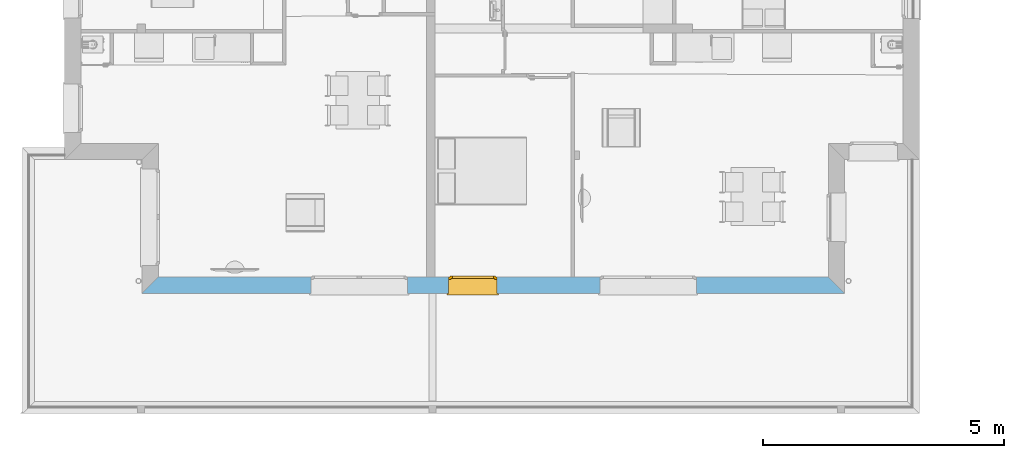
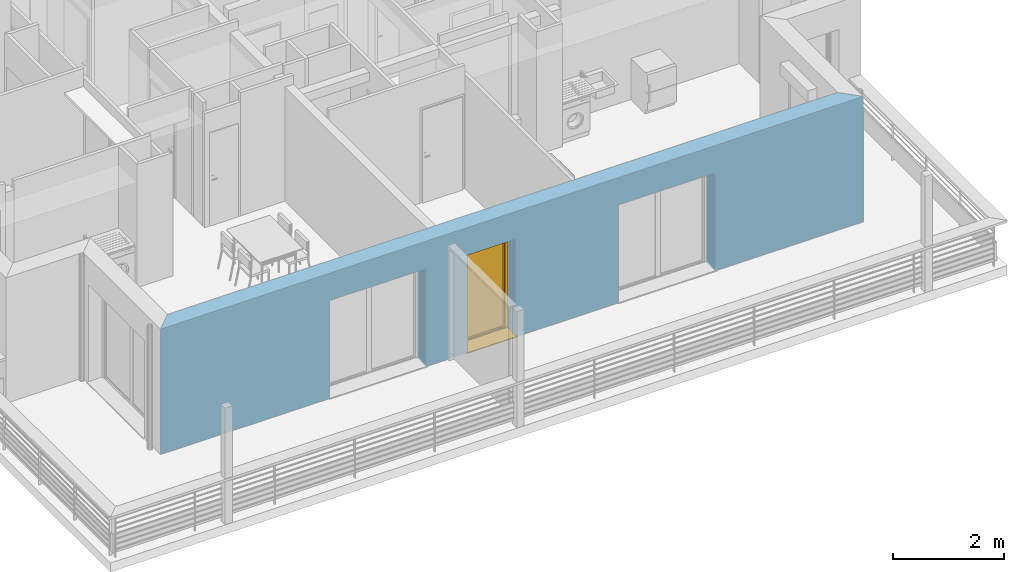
# One storey, part 6 of 164: 1 window, 3 openings, plus 1 element that does not belong to this part.
"""IFC2X3 building model written with IfcOpenShell, lengths in millimetres."""

from ifc_helpers import new_model, entity, si_unit, converted_unit, derived_unit, money_unit, direction, frame, origin_with_axes, place, context, subcontext, project, spatial, polyline, outline, extrude, open_shell, faceted_brep, surface_model, source, transform, mapped, material, layer, layer_set, layer_usage, type_object, element, fill, save


model = new_model("IFC2X3")

# Units and contexts
model_context = context("Model", 3, precision=0.01, world=origin_with_axes(), true_north=direction((0.0, 1.0)))
body_context = subcontext(model_context, "Body", "Model", "MODEL_VIEW")
ifc_project = project(units=[si_unit("LENGTHUNIT", "METRE", prefix="MILLI"), si_unit("AREAUNIT", "SQUARE_METRE"), si_unit("VOLUMEUNIT", "CUBIC_METRE"), converted_unit("PLANEANGLEUNIT", "DEGREE", entity("IfcPlaneAngleMeasure", 0.0174532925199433), si_unit("PLANEANGLEUNIT", "RADIAN"), dimensions=[0, 0, 0, 0, 0, 0, 0]), money_unit("USD"), converted_unit("TIMEUNIT", "Year", entity("IfcTimeMeasure", 31557600.0), si_unit("TIMEUNIT", "SECOND"), dimensions=[0, 0, 1, 0, 0, 0, 0]), si_unit("MASSUNIT", "GRAM", prefix="KILO"), si_unit("THERMODYNAMICTEMPERATUREUNIT", "DEGREE_CELSIUS"), si_unit("LUMINOUSINTENSITYUNIT", "LUMEN"), si_unit("ENERGYUNIT", "JOULE", prefix="MEGA"), derived_unit("THERMALCONDUCTANCEUNIT", [(si_unit("POWERUNIT", "WATT"), 1), (si_unit("LENGTHUNIT", "METRE"), -1), (si_unit("THERMODYNAMICTEMPERATUREUNIT", "KELVIN"), -1)]), derived_unit("SPECIFICHEATCAPACITYUNIT", [(si_unit("ENERGYUNIT", "JOULE"), 1), (si_unit("MASSUNIT", "GRAM", prefix="KILO"), -1), (si_unit("THERMODYNAMICTEMPERATUREUNIT", "KELVIN"), -1)]), derived_unit("MASSDENSITYUNIT", [(si_unit("MASSUNIT", "GRAM", prefix="KILO"), 1), (si_unit("VOLUMEUNIT", "CUBIC_METRE"), -1)])], contexts=[model_context])

# Site, building, storey
site_placement = place(None, origin_with_axes())
site = spatial("IfcSite", under=ifc_project, at=site_placement, Name="Site", CompositionType="ELEMENT")
building_placement = place(site_placement, origin_with_axes())
building = spatial("IfcBuilding", under=site, at=building_placement, Name="Bâtiment", CompositionType="ELEMENT")
storey_placement = place(building_placement, frame((0.0, 0.0, 5750.0), z_axis=(0.0, 0.0, 1.0), x_axis=(1.0, 0.0, 0.0)))
storey = spatial("IfcBuildingStorey", under=building, at=storey_placement, Name="Etage1", CompositionType="ELEMENT", Elevation=5750.0)

# Wall, openings, window
ifc_material_1 = material(Name="Parpaing 312445824")
ifc_layer_1 = layer(ifc_material_1, 180.0, ventilated="UNKNOWN")
ifc_material_2 = material(Name="Isolant styromousse 301821074")
ifc_layer_2 = layer(ifc_material_2, 160.0, ventilated="UNKNOWN")
ifc_layer_set = layer_set([ifc_layer_1, ifc_layer_2], Name="isol int 18+16 0018356637")
ifc_layer_usage = layer_usage(ifc_layer_set, "AXIS2", "POSITIVE", 0.0)
wall_type = type_object("IfcWallType", Name="isol int 18+16 0018356637 340", PredefinedType="NOTDEFINED")
wall_placement = place(storey_placement, frame((2218234.233338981, -657818.3230769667, 0.0), z_axis=(0.0, 0.0, 1.0), x_axis=(1.0, 0.0, 0.0)))
wall = element("IfcWallStandardCase", 1, at=wall_placement, inside=storey, type_object=wall_type, material=ifc_layer_usage, Name="Mur-142", context=body_context, shape_type="SweptSolid", body=[
    extrude(outline(polyline([(0.0, 0.0), (14572.42475965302, 0.0), (14232.42475965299, 340.0000000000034), (340.0000000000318, 340.0000000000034), (0.0, 0.0)])), origin_with_axes(), (0.0, 0.0, 1.0), 2750.0),
])
opening_1_placement = place(wall_placement, frame((6861.100702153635, 0.0, 0.0), z_axis=(0.0, 0.0, 1.0), x_axis=(1.0, 0.0, 0.0)))
opening_1 = element("IfcOpeningElement", 2, at=opening_1_placement, cuts=wall, Name="Fen-208", context=body_context, shape_type="Brep", body=[
    faceted_brep([(-500.0, 341.0000000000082, 2150.0), (500.0, 341.0000000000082, 2150.0), (500.0, 341.0000000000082, 0.0), (-500.0, 341.0000000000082, 0.0), (-500.0, 530.0000000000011, 2150.0), (500.0, 530.0000000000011, 2150.0), (500.0, 290.0000000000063, 2150.0), (500.0, 290.0000000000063, 0.0), (500.0, -1.000000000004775, 0.0), (-500.0, -1.000000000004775, 0.0), (-500.0, 290.0000000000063, 0.0), (-500.0, 290.0000000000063, 2150.0), (-500.0, 280.0000000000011, 2150.0), (-500.0, 280.0000000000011, 2400.0), (-500.0, 530.0000000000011, 2400.0), (500.0, 530.0000000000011, 2400.0), (500.0, 280.0000000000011, 2400.0), (500.0, 280.0000000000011, 2150.0), (500.0, -1.000000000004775, 2150.0), (-500.0, -1.000000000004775, 2150.0)], [[[0, 1, 2, 3]], [[1, 0, 4, 5]], [[1, 6, 7, 2]], [[7, 8, 9, 10, 3, 2]], [[11, 0, 3, 10]], [[0, 11, 12, 13, 14, 4]], [[4, 14, 15, 5]], [[6, 1, 5, 15, 16, 17]], [[6, 17, 18, 8, 7]], [[19, 9, 8, 18]], [[12, 11, 10, 9, 19]], [[12, 17, 16, 13]], [[14, 13, 16, 15]], [[17, 12, 19, 18]]]),
])
opening_2_placement = place(wall_placement, frame((4505.859536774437, 0.0, 0.0), z_axis=(0.0, 0.0, 1.0), x_axis=(1.0, 0.0, 0.0)))
element("IfcOpeningElement", 3, at=opening_2_placement, cuts=wall, Name="Fen-207", context=body_context, shape_type="Brep", body=[
    faceted_brep([(-1000.0, 341.0000000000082, 2149.999999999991), (1000.0, 341.0000000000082, 2149.999999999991), (1000.0, 341.0000000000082, 0.0), (-1000.0, 341.0000000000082, 0.0), (-1000.0, 530.0000000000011, 2149.999999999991), (1000.0, 530.0000000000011, 2149.999999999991), (1000.0, 290.0000000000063, 2149.999999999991), (1000.0, 290.0000000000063, 0.0), (1000.0, -1.000000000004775, 0.0), (-1000.0, -1.000000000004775, 0.0), (-1000.0, 290.0000000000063, 0.0), (-1000.0, 290.0000000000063, 2149.999999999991), (-1000.0, 280.0000000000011, 2149.999999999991), (-1000.0, 280.0000000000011, 2399.999999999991), (-1000.0, 530.0000000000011, 2399.999999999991), (1000.0, 530.0000000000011, 2399.999999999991), (1000.0, 280.0000000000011, 2399.999999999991), (1000.0, 280.0000000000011, 2149.999999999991), (1000.0, -1.000000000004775, 2149.999999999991), (-1000.0, -1.000000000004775, 2149.999999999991)], [[[0, 1, 2, 3]], [[1, 0, 4, 5]], [[1, 6, 7, 2]], [[7, 8, 9, 10, 3, 2]], [[11, 0, 3, 10]], [[0, 11, 12, 13, 14, 4]], [[15, 5, 4, 14]], [[6, 1, 5, 15, 16, 17]], [[6, 17, 18, 8, 7]], [[19, 9, 8, 18]], [[12, 11, 10, 9, 19]], [[12, 17, 16, 13]], [[16, 15, 14, 13]], [[17, 12, 19, 18]]]),
])
opening_3_placement = place(wall_placement, frame((10494.55984898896, 0.0, 0.0), z_axis=(0.0, 0.0, 1.0), x_axis=(1.0, 0.0, 0.0)))
element("IfcOpeningElement", 4, at=opening_3_placement, cuts=wall, Name="Fen-207", context=body_context, shape_type="Brep", body=[
    faceted_brep([(-1000.0, 341.0000000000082, 2149.999999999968), (1000.0, 341.0000000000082, 2149.999999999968), (1000.0, 341.0000000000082, 0.0), (-1000.0, 341.0000000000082, 0.0), (-1000.0, 530.0000000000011, 2149.999999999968), (1000.0, 530.0000000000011, 2149.999999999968), (1000.0, 290.0000000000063, 2149.999999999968), (1000.0, 290.0000000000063, 0.0), (1000.0, -1.000000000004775, 0.0), (-1000.0, -1.000000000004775, 0.0), (-1000.0, 290.0000000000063, 0.0), (-1000.0, 290.0000000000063, 2149.999999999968), (-1000.0, 280.0000000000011, 2149.999999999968), (-1000.0, 280.0000000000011, 2399.999999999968), (-1000.0, 530.0000000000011, 2399.999999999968), (1000.0, 530.0000000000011, 2399.999999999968), (1000.0, 280.0000000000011, 2399.999999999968), (1000.0, 280.0000000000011, 2149.999999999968), (1000.0, -1.000000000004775, 2149.999999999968), (-1000.0, -1.000000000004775, 2149.999999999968)], [[[0, 1, 2, 3]], [[1, 0, 4, 5]], [[1, 6, 7, 2]], [[7, 8, 9, 10, 3, 2]], [[11, 0, 3, 10]], [[0, 11, 12, 13, 14, 4]], [[15, 5, 4, 14]], [[6, 1, 5, 15, 16, 17]], [[6, 17, 18, 8, 7]], [[19, 9, 8, 18]], [[12, 11, 10, 9, 19]], [[12, 17, 16, 13]], [[16, 15, 14, 13]], [[17, 12, 19, 18]]]),
])
window_style = type_object("IfcWindowStyle", Name="Fenêtre 27", ConstructionType="NOTDEFINED", OperationType="SINGLE_PANEL", ParameterTakesPrecedence=False, Sizeable=False)
shared_shape = source(origin_with_axes(), body_context, "Body", "SurfaceModel", [
    surface_model("IfcShellBasedSurfaceModel", [(-500.0, -51.00000000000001, 40.00000000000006), (500.0, -51.00000000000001, 40.0), (500.0, -51.00000000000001, 50.0), (-500.0, -51.00000000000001, 50.00000000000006), (-530.0, -369.9999999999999, 28.96551724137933), (530.0, -369.9999999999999, 28.96551724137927), (530.0, -339.9999999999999, 30.00324289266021), (500.0, -339.9999999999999, 30.00324289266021), (-500.0, -339.9999999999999, 30.00324289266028), (-530.0, -339.9999999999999, 30.00324289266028), (-530.0, -369.9999999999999, 8.96551724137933), (530.0, -369.9999999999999, 8.965517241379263), (-530.0, -359.9999999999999, 18.96551724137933), (530.0, -359.9999999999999, 18.96551724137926)], [open_shell([[[0, 1, 2, 3]], [[4, 5, 6, 7, 1, 0, 8, 9]], [[10, 11, 5, 4]], [[12, 13, 11, 10]]])]),
    faceted_brep([(500.0, -59.99999999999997, 2400.0), (500.0, 190.0, 2400.0), (497.0, 190.0, 2400.0), (497.0, -59.99999999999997, 2400.0), (500.0, -59.99999999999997, 2150.0), (500.0, 190.0, 2150.0), (497.0, 190.0, 2150.0), (497.0, -59.99999999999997, 2150.0)], [[[0, 1, 2, 3]], [[0, 4, 5, 1]], [[1, 5, 6, 2]], [[3, 2, 6, 7]], [[4, 0, 3, 7]], [[5, 4, 7, 6]]]),
    faceted_brep([(-497.0, -59.99999999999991, 2400.0), (-497.0, 190.0000000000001, 2400.0), (-500.0, 190.0000000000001, 2400.0), (-500.0, -59.99999999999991, 2400.0), (-497.0, -59.99999999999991, 2150.0), (-497.0, 190.0000000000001, 2150.0), (-500.0, 190.0000000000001, 2150.0), (-500.0, -59.99999999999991, 2150.0)], [[[0, 1, 2, 3]], [[0, 4, 5, 1]], [[1, 5, 6, 2]], [[3, 2, 6, 7]], [[4, 0, 3, 7]], [[5, 4, 7, 6]]]),
    faceted_brep([(497.0, -60.0, 2150.0), (497.0, -60.0, 2400.0), (-497.0, -59.99999999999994, 2400.0), (-497.0, -59.99999999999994, 2150.0), (497.0, -56.99999999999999, 2150.0), (497.0, -56.99999999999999, 2397.0), (497.0, 187.0, 2397.0), (497.0, 187.0, 2153.0), (497.0, -37.99999999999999, 2153.0), (497.0, -37.99999999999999, 2150.0), (497.0, 190.0, 2150.0), (497.0, 190.0, 2400.0), (-497.0, 190.0000000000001, 2400.0), (-497.0, 190.0000000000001, 2150.0), (-497.0, -37.99999999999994, 2150.0), (-497.0, -37.99999999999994, 2153.0), (-497.0, 187.0000000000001, 2153.0), (-497.0, 187.0000000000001, 2397.0), (-497.0, -56.99999999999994, 2397.0), (-497.0, -56.99999999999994, 2150.0)], [[[0, 1, 2, 3]], [[0, 4, 5, 6, 7, 8, 9, 10, 11, 1]], [[1, 11, 12, 2]], [[3, 2, 12, 13, 14, 15, 16, 17, 18, 19]], [[4, 0, 3, 19]], [[5, 4, 19, 18]], [[6, 5, 18, 17]], [[7, 6, 17, 16]], [[8, 7, 16, 15]], [[9, 8, 15, 14]], [[10, 9, 14, 13]], [[11, 10, 13, 12]]]),
    faceted_brep([(494.0, -40.37442957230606, 2256.419644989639), (494.0, -35.54711042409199, 2238.403844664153), (494.0, -27.66471820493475, 2221.5), (494.0, -16.9667554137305, 2206.22172576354), (494.0, -3.778274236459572, 2193.033244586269), (494.0, 11.50000000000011, 2182.335281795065), (494.0, 28.40384466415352, 2174.452889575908), (494.0, 46.4196449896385, 2169.625570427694), (494.0, 65.00000000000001, 2168.0), (494.0, 83.58035501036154, 2169.625570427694), (494.0, 101.5961553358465, 2174.452889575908), (494.0, 118.4999999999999, 2182.335281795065), (494.0, 133.7782742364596, 2193.033244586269), (494.0, 146.9667554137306, 2206.22172576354), (494.0, 157.6647182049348, 2221.5), (494.0, 165.5471104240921, 2238.403844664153), (494.0, 170.3744295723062, 2256.419644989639), (494.0, 171.9999999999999, 2275.0), (494.0, 170.3744295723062, 2293.580355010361), (494.0, 165.5471104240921, 2311.596155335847), (494.0, 157.6647182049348, 2328.5), (494.0, 146.9667554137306, 2343.77827423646), (494.0, 133.7782742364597, 2356.96675541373), (494.0, 118.5, 2367.664718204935), (494.0, 101.5961553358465, 2375.547110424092), (494.0, 83.58035501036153, 2380.374429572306), (494.0, 64.99999999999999, 2382.0), (494.0, 46.41964498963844, 2380.374429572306), (494.0, 28.40384466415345, 2375.547110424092), (494.0, 11.5, 2367.664718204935), (494.0, -3.778274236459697, 2356.96675541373), (494.0, -16.96675541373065, 2343.77827423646), (494.0, -27.66471820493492, 2328.5), (494.0, -35.54711042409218, 2311.596155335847), (494.0, -40.37442957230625, 2293.580355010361), (494.0, -41.99999999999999, 2275.0), (-494.0, -40.374429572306, 2256.419644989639), (-494.0, -35.54711042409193, 2238.403844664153), (-494.0, -27.6647182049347, 2221.5), (-494.0, -16.96675541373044, 2206.22172576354), (-494.0, -3.778274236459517, 2193.033244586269), (-494.0, 11.50000000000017, 2182.335281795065), (-494.0, 28.40384466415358, 2174.452889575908), (-494.0, 46.41964498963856, 2169.625570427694), (-494.0, 65.00000000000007, 2168.0), (-494.0, 83.5803550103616, 2169.625570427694), (-494.0, 101.5961553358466, 2174.452889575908), (-494.0, 118.5, 2182.335281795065), (-494.0, 133.7782742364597, 2193.033244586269), (-494.0, 146.9667554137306, 2206.22172576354), (-494.0, 157.6647182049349, 2221.5), (-494.0, 165.5471104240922, 2238.403844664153), (-494.0, 170.3744295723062, 2256.419644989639), (-494.0, 172.0, 2275.0), (-494.0, 170.3744295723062, 2293.580355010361), (-494.0, 165.5471104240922, 2311.596155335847), (-494.0, 157.6647182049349, 2328.5), (-494.0, 146.9667554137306, 2343.77827423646), (-494.0, 133.7782742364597, 2356.96675541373), (-494.0, 118.5, 2367.664718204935), (-494.0, 101.5961553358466, 2375.547110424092), (-494.0, 83.58035501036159, 2380.374429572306), (-494.0, 65.00000000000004, 2382.0), (-494.0, 46.41964498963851, 2380.374429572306), (-494.0, 28.40384466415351, 2375.547110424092), (-494.0, 11.50000000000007, 2367.664718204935), (-494.0, -3.778274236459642, 2356.96675541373), (-494.0, -16.96675541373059, 2343.77827423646), (-494.0, -27.66471820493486, 2328.5), (-494.0, -35.54711042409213, 2311.596155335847), (-494.0, -40.37442957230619, 2293.580355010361), (-494.0, -41.99999999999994, 2275.0)], [[[0, 1, 2, 3, 4, 5, 6, 7, 8, 9, 10, 11, 12, 13, 14, 15, 16, 17, 18, 19, 20, 21, 22, 23, 24, 25, 26, 27, 28, 29, 30, 31, 32, 33, 34, 35]], [[1, 0, 36, 37]], [[2, 1, 37, 38]], [[3, 2, 38, 39]], [[4, 3, 39, 40]], [[5, 4, 40, 41]], [[6, 5, 41, 42]], [[7, 6, 42, 43]], [[8, 7, 43, 44]], [[9, 8, 44, 45]], [[10, 9, 45, 46]], [[11, 10, 46, 47]], [[12, 11, 47, 48]], [[13, 12, 48, 49]], [[14, 13, 49, 50]], [[15, 14, 50, 51]], [[16, 15, 51, 52]], [[17, 16, 52, 53]], [[18, 17, 53, 54]], [[19, 18, 54, 55]], [[20, 19, 55, 56]], [[21, 20, 56, 57]], [[22, 21, 57, 58]], [[23, 22, 58, 59]], [[24, 23, 59, 60]], [[25, 24, 60, 61]], [[26, 25, 61, 62]], [[27, 26, 62, 63]], [[28, 27, 63, 64]], [[29, 28, 64, 65]], [[30, 29, 65, 66]], [[31, 30, 66, 67]], [[32, 31, 67, 68]], [[33, 32, 68, 69]], [[34, 33, 69, 70]], [[35, 34, 70, 71]], [[0, 35, 71, 36]], [[36, 71, 70, 69, 68, 67, 66, 65, 64, 63, 62, 61, 60, 59, 58, 57, 56, 55, 54, 53, 52, 51, 50, 49, 48, 47, 46, 45, 44, 43, 42, 41, 40, 39, 38, 37]]]),
    faceted_brep([(-500.0, -34.99999999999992, 30.0), (-500.0, -59.99999999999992, 30.0), (-500.0, -59.99999999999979, 2150.0), (-500.0, -34.99999999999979, 2150.0), (-475.0, -34.99999999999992, 30.0), (-475.0, -37.99999999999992, 30.0), (-497.0, -37.99999999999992, 30.0), (-497.0, -56.99999999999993, 30.0), (-475.0, -56.99999999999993, 30.0), (-475.0, -59.99999999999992, 30.0), (-475.0, -59.99999999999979, 2150.0), (-475.0, -56.99999999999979, 2150.0), (-497.0, -56.99999999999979, 2150.0), (-497.0, -37.99999999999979, 2150.0), (-475.0, -37.99999999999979, 2150.0), (-475.0, -34.99999999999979, 2150.0)], [[[0, 1, 2, 3]], [[0, 4, 5, 6, 7, 8, 9, 1]], [[1, 9, 10, 2]], [[3, 2, 10, 11, 12, 13, 14, 15]], [[4, 0, 3, 15]], [[5, 4, 15, 14]], [[6, 5, 14, 13]], [[7, 6, 13, 12]], [[8, 7, 12, 11]], [[9, 8, 11, 10]]]),
    faceted_brep([(500.0, -34.99999999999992, 30.0), (500.0, -34.99999999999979, 2150.0), (500.0, -59.99999999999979, 2150.0), (500.0, -59.99999999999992, 30.0), (475.0, -34.99999999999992, 30.0), (475.0, -34.99999999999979, 2150.0), (475.0, -37.99999999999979, 2150.0), (497.0, -37.99999999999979, 2150.0), (497.0, -56.99999999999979, 2150.0), (475.0, -56.99999999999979, 2150.0), (475.0, -59.99999999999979, 2150.0), (475.0, -59.99999999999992, 30.0), (475.0, -56.99999999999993, 30.0), (497.0, -56.99999999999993, 30.0), (497.0, -37.99999999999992, 30.0), (475.0, -37.99999999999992, 30.0)], [[[0, 1, 2, 3]], [[4, 5, 1, 0]], [[1, 5, 6, 7, 8, 9, 10, 2]], [[3, 2, 10, 11]], [[0, 3, 11, 12, 13, 14, 15, 4]], [[15, 6, 5, 4]], [[14, 7, 6, 15]], [[13, 8, 7, 14]], [[12, 9, 8, 13]], [[11, 10, 9, 12]]]),
    faceted_brep([(-497.0, -46.66666666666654, 2275.0), (497.0, -46.6666666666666, 2275.0), (497.0, -46.6666666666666, 2266.666666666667), (-497.0, -46.66666666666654, 2266.666666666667), (-497.0, -51.66666666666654, 2275.0), (497.0, -51.6666666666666, 2275.0), (497.0, -51.6666666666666, 2266.666666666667), (497.0, -49.99999999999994, 2250.0), (497.0, -44.99999999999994, 2250.0), (-497.0, -44.99999999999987, 2250.0), (-497.0, -49.99999999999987, 2250.0), (-497.0, -51.66666666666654, 2266.666666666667)], [[[0, 1, 2, 3]], [[1, 0, 4, 5]], [[1, 5, 6, 7, 8, 2]], [[2, 8, 9, 3]], [[4, 0, 3, 9, 10, 11]], [[6, 5, 4, 11]], [[7, 6, 11, 10]], [[8, 7, 10, 9]]]),
    faceted_brep([(497.0, -44.99999999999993, 2250.0), (497.0, -46.6666666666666, 2233.333333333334), (-497.0, -46.66666666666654, 2233.333333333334), (-497.0, -44.99999999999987, 2250.0), (497.0, -49.99999999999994, 2250.0), (497.0, -51.6666666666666, 2233.333333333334), (497.0, -51.6666666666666, 2216.666666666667), (497.0, -49.99999999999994, 2200.0), (497.0, -44.99999999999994, 2200.0), (497.0, -46.6666666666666, 2216.666666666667), (-497.0, -46.66666666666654, 2216.666666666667), (-497.0, -44.99999999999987, 2200.0), (-497.0, -49.99999999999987, 2200.0), (-497.0, -51.66666666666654, 2216.666666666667), (-497.0, -51.66666666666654, 2233.333333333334), (-497.0, -49.99999999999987, 2250.0)], [[[0, 1, 2, 3]], [[0, 4, 5, 6, 7, 8, 9, 1]], [[1, 9, 10, 2]], [[3, 2, 10, 11, 12, 13, 14, 15]], [[4, 0, 3, 15]], [[5, 4, 15, 14]], [[6, 5, 14, 13]], [[7, 6, 13, 12]], [[8, 7, 12, 11]], [[9, 8, 11, 10]]]),
    faceted_brep([(497.0, -44.99999999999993, 2200.0), (497.0, -46.6666666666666, 2183.333333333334), (-497.0, -46.66666666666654, 2183.333333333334), (-497.0, -44.99999999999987, 2200.0), (497.0, -49.99999999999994, 2200.0), (497.0, -51.6666666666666, 2183.333333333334), (497.0, -51.6666666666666, 2166.666666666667), (497.0, -49.99999999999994, 2150.000000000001), (497.0, -44.99999999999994, 2150.000000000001), (497.0, -46.6666666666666, 2166.666666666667), (-497.0, -46.66666666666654, 2166.666666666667), (-497.0, -44.99999999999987, 2150.000000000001), (-497.0, -49.99999999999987, 2150.000000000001), (-497.0, -51.66666666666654, 2166.666666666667), (-497.0, -51.66666666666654, 2183.333333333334), (-497.0, -49.99999999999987, 2200.0)], [[[0, 1, 2, 3]], [[0, 4, 5, 6, 7, 8, 9, 1]], [[1, 9, 10, 2]], [[3, 2, 10, 11, 12, 13, 14, 15]], [[4, 0, 3, 15]], [[5, 4, 15, 14]], [[6, 5, 14, 13]], [[7, 6, 13, 12]], [[8, 7, 12, 11]], [[9, 8, 11, 10]]]),
    faceted_brep([(475.0000000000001, 0.0, 2100.0), (475.0000000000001, -25.00000000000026, 2100.0), (450.0, -25.00000000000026, 2100.0), (450.0, -50.00000000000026, 2100.0), (500.0, -50.00000000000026, 2100.0), (500.0, 0.0, 2100.0), (475.0000000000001, 0.0, 50.00000000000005), (475.0000000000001, -25.00000000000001, 50.00000000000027), (450.0, -25.00000000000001, 50.00000000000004), (450.0, -50.00000000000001, 50.00000000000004), (500.0, -50.00000000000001, 50.00000000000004), (500.0, 0.0, 50.00000000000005)], [[[0, 1, 2, 3, 4, 5]], [[1, 0, 6, 7]], [[8, 2, 1, 7]], [[2, 8, 9, 3]], [[4, 3, 9, 10]], [[5, 4, 10, 11]], [[6, 0, 5, 11]], [[7, 6, 11, 10, 9, 8]]]),
    faceted_brep([(-450.0, -25.00000000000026, 2100.0), (-475.0000000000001, -25.00000000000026, 2100.0), (-475.0000000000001, 0.0, 2100.0), (-500.0, 0.0, 2100.0), (-500.0, -50.00000000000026, 2100.0), (-450.0, -50.00000000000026, 2100.0), (-450.0, -25.00000000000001, 50.00000000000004), (-475.0000000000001, -25.00000000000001, 50.00000000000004), (-475.0000000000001, 0.0, 50.00000000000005), (-500.0, 0.0, 50.00000000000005), (-500.0, -50.00000000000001, 50.00000000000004), (-450.0, -50.00000000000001, 50.00000000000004)], [[[0, 1, 2, 3, 4, 5]], [[1, 0, 6, 7]], [[8, 2, 1, 7]], [[2, 8, 9, 3]], [[9, 10, 4, 3]], [[10, 11, 5, 4]], [[6, 0, 5, 11]], [[7, 6, 11, 10, 9, 8]]]),
    faceted_brep([(-450.0, -25.00000000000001, 50.00000000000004), (-475.0000000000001, -25.00000000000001, 50.00000000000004), (-475.0000000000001, 0.0, 50.00000000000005), (-500.0, 0.0, 50.00000000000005), (-500.0, -50.00000000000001, 50.00000000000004), (-450.0, -50.00000000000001, 50.00000000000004), (450.0, -25.00000000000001, 50.00000000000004), (475.0000000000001, -25.00000000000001, 50.00000000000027), (475.0000000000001, -25.0, 24.99999999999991), (-475.0000000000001, -25.0, 24.99999999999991), (-475.0000000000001, 0.0, 24.99999999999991), (475.0000000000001, 0.0, 24.99999999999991), (475.0000000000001, 0.0, 50.00000000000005), (500.0, 0.0, 50.00000000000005), (500.0, 0.0, 0.0), (-500.0, 0.0, 0.0), (-500.0, -50.0, 0.0), (500.0, -50.00000000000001, 50.00000000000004), (450.0, -50.00000000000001, 50.00000000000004), (500.0, -50.0, 0.0)], [[[0, 1, 2, 3, 4, 5]], [[1, 0, 6, 7, 8, 9]], [[10, 2, 1, 9]], [[11, 12, 13, 14, 15, 3, 2, 10]], [[15, 16, 4, 3]], [[17, 18, 5, 4, 16, 19]], [[6, 0, 5, 18]], [[7, 6, 18, 17, 13, 12]], [[7, 12, 11, 8]], [[11, 10, 9, 8]], [[13, 17, 19, 14]], [[14, 19, 16, 15]]]),
    faceted_brep([(475.0000000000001, 0.0, 2100.0), (475.0000000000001, 0.0, 2125.0), (-475.0000000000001, 0.0, 2125.0), (-475.0000000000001, 0.0, 2100.0), (-500.0, 0.0, 2100.0), (-500.0, 0.0, 2150.0), (500.0, 0.0, 2150.0), (500.0, 0.0, 2100.0), (475.0000000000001, -25.00000000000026, 2100.0), (475.0000000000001, -25.00000000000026, 2125.0), (-475.0000000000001, -25.00000000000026, 2125.0), (-475.0000000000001, -25.00000000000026, 2100.0), (-450.0, -25.00000000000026, 2100.0), (-450.0, -50.00000000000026, 2100.0), (-500.0, -50.00000000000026, 2100.0), (-500.0, -50.00000000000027, 2150.0), (500.0, -50.00000000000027, 2150.0), (500.0, -50.00000000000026, 2100.0), (450.0, -50.00000000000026, 2100.0), (450.0, -25.00000000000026, 2100.0)], [[[0, 1, 2, 3, 4, 5, 6, 7]], [[1, 0, 8, 9]], [[2, 1, 9, 10]], [[3, 2, 10, 11]], [[11, 12, 13, 14, 4, 3]], [[4, 14, 15, 5]], [[5, 15, 16, 6]], [[6, 16, 17, 7]], [[8, 0, 7, 17, 18, 19]], [[12, 11, 10, 9, 8, 19]], [[12, 19, 18, 13]], [[14, 13, 18, 17, 16, 15]]]),
    faceted_brep([(425.0000000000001, -25.00000000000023, 2075.0), (475.0000000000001, -25.00000000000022, 2075.0), (475.0000000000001, 24.99999999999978, 2075.0), (425.0000000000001, 24.99999999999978, 2075.0), (425.0000000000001, -24.99999999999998, 75.00000000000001), (475.0000000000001, -24.99999999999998, 75.00000000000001), (475.0000000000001, 25.00000000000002, 75.00000000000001), (425.0000000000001, 25.00000000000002, 75.00000000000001)], [[[0, 1, 2, 3]], [[0, 4, 5, 1]], [[1, 5, 6, 2]], [[3, 2, 6, 7]], [[4, 0, 3, 7]], [[5, 4, 7, 6]]]),
    faceted_brep([(-425.0000000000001, -25.00000000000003, 75.00000000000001), (-475.0000000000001, -25.00000000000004, 75.00000000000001), (-475.0000000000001, 24.99999999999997, 75.00000000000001), (-425.0000000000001, 24.99999999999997, 75.00000000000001), (-425.0000000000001, -25.00000000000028, 2075.0), (-475.0000000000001, -25.00000000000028, 2075.0), (-475.0000000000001, 24.99999999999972, 2075.0), (-425.0000000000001, 24.99999999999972, 2075.0)], [[[0, 1, 2, 3]], [[0, 4, 5, 1]], [[1, 5, 6, 2]], [[3, 2, 6, 7]], [[4, 0, 3, 7]], [[5, 4, 7, 6]]]),
    faceted_brep([(-475.0000000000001, -25.00000000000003, 25.0), (-475.0000000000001, -25.00000000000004, 75.00000000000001), (-475.0000000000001, 24.99999999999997, 75.00000000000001), (-475.0000000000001, 24.99999999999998, 25.00000000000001), (475.0000000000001, -24.99999999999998, 25.0), (475.0000000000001, -24.99999999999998, 75.00000000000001), (425.0000000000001, -24.99999999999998, 75.00000000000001), (-425.0000000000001, -25.00000000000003, 75.00000000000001), (-425.0000000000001, 24.99999999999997, 75.00000000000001), (425.0000000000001, 25.00000000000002, 75.00000000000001), (475.0000000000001, 25.00000000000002, 75.00000000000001), (475.0000000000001, 25.00000000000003, 25.00000000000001)], [[[0, 1, 2, 3]], [[0, 4, 5, 6, 7, 1]], [[1, 7, 8, 2]], [[3, 2, 8, 9, 10, 11]], [[4, 0, 3, 11]], [[5, 4, 11, 10]], [[6, 5, 10, 9]], [[7, 6, 9, 8]]]),
    faceted_brep([(475.0000000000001, -25.00000000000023, 2125.0), (475.0000000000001, -25.00000000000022, 2075.0), (475.0000000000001, 24.99999999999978, 2075.0), (475.0000000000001, 24.99999999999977, 2125.0), (-475.0000000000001, -25.00000000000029, 2125.0), (-475.0000000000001, -25.00000000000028, 2075.0), (-425.0000000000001, -25.00000000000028, 2075.0), (425.0000000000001, -25.00000000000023, 2075.0), (425.0000000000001, 24.99999999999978, 2075.0), (-425.0000000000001, 24.99999999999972, 2075.0), (-475.0000000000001, 24.99999999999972, 2075.0), (-475.0000000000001, 24.99999999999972, 2125.0)], [[[0, 1, 2, 3]], [[0, 4, 5, 6, 7, 1]], [[1, 7, 8, 2]], [[3, 2, 8, 9, 10, 11]], [[4, 0, 3, 11]], [[5, 4, 11, 10]], [[6, 5, 10, 9]], [[7, 6, 9, 8]]]),
    surface_model("IfcShellBasedSurfaceModel", [(425.0000000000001, -10.00000000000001, 75.00000000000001), (425.0000000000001, -10.00000000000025, 2075.0), (-425.0000000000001, -10.00000000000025, 2075.0), (-425.0000000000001, -10.00000000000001, 75.00000000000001)], [open_shell([[[0, 1, 2, 3]]])]),
    surface_model("IfcShellBasedSurfaceModel", [(425.0000000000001, 9.999999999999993, 75.00000000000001), (-425.0000000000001, 9.999999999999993, 75.00000000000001), (-425.0000000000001, 9.99999999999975, 2075.0), (425.0000000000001, 9.99999999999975, 2075.0)], [open_shell([[[0, 1, 2, 3]]])]),
])
window_placement = place(opening_1_placement, frame((-500.0, 0.0, 0.0), z_axis=(0.0, 0.0, 1.0), x_axis=(1.0, 0.0, 0.0)))
window = element("IfcWindow", 5, at=window_placement, inside=storey, type_object=window_style, Name="Fen-208", OverallHeight=2150.0, OverallWidth=1000.0, context=body_context, shape_type="MappedRepresentation", body=[
    mapped(shared_shape, transform((500.0, 340.0000000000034, 0.0))),
])
fill(opening_1, window)

save(model, "model.ifc")
